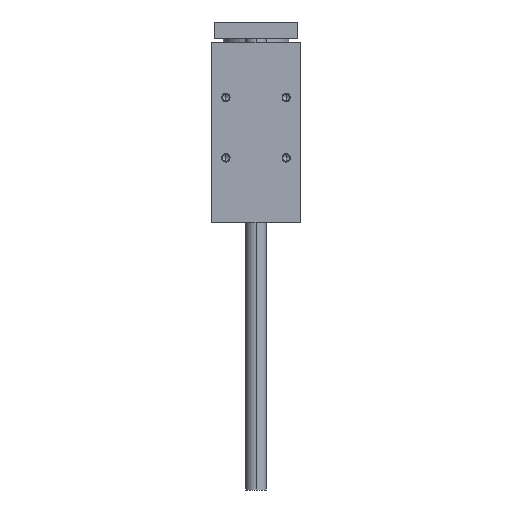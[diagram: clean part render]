
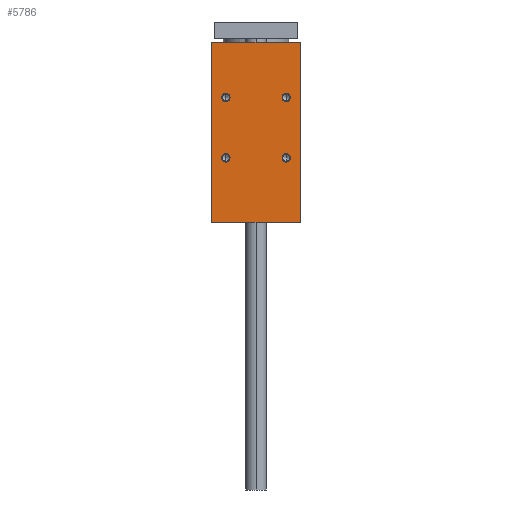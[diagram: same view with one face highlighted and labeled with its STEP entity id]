
A CAD part, left-side view. The second image highlights one B-rep face of the part: STEP entity #5786.
In plain terms, the highlighted planar face has unit normal (-1, 0, 0).
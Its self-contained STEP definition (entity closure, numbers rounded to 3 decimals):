
#59 = AXIS2_PLACEMENT_3D ( 'NONE', #8581, #6330, #8486 ) ;
#124 = LINE ( 'NONE', #5474, #5745 ) ;
#193 = CARTESIAN_POINT ( 'NONE',  ( -94.5, -52.5, 87. ) ) ;
#243 = CARTESIAN_POINT ( 'NONE',  ( -94.5, -36., 16. ) ) ;
#408 = AXIS2_PLACEMENT_3D ( 'NONE', #2732, #3460, #9449 ) ;
#469 = VERTEX_POINT ( 'NONE', #3467 ) ;
#518 = CARTESIAN_POINT ( 'NONE',  ( -94.5, -52.5, -128. ) ) ;
#523 = EDGE_LOOP ( 'NONE', ( #3005, #1964 ) ) ;
#552 = CARTESIAN_POINT ( 'NONE',  ( -94.5, 36., -56. ) ) ;
#557 = VERTEX_POINT ( 'NONE', #552 ) ;
#610 = VERTEX_POINT ( 'NONE', #698 ) ;
#653 = CIRCLE ( 'NONE', #5770, 5. ) ;
#698 = CARTESIAN_POINT ( 'NONE',  ( -94.5, 36., 16. ) ) ;
#931 = DIRECTION ( 'NONE',  ( 1., 0., 0. ) ) ;
#971 = DIRECTION ( 'NONE',  ( 1., 0., 0. ) ) ;
#1000 = EDGE_CURVE ( 'NONE', #5809, #3623, #3088, .T. ) ;
#1171 = LINE ( 'NONE', #8623, #1658 ) ;
#1232 = EDGE_CURVE ( 'NONE', #6053, #9117, #9296, .T. ) ;
#1542 = ORIENTED_EDGE ( 'NONE', *, *, #7412, .T. ) ;
#1575 = ORIENTED_EDGE ( 'NONE', *, *, #7642, .T. ) ;
#1658 = VECTOR ( 'NONE', #4143, 1000. ) ;
#1747 = CARTESIAN_POINT ( 'NONE',  ( -94.5, -52.5, -128. ) ) ;
#1840 = EDGE_LOOP ( 'NONE', ( #3393, #6830, #8201, #7185 ) ) ;
#1855 = DIRECTION ( 'NONE',  ( 0., 0., -1. ) ) ;
#1864 = DIRECTION ( 'NONE',  ( 0., 0., -1. ) ) ;
#1872 = DIRECTION ( 'NONE',  ( 0., 0., -1. ) ) ;
#1964 = ORIENTED_EDGE ( 'NONE', *, *, #8063, .T. ) ;
#2098 = CARTESIAN_POINT ( 'NONE',  ( -94.5, 36., 21. ) ) ;
#2273 = FACE_BOUND ( 'NONE', #7261, .T. ) ;
#2276 = VERTEX_POINT ( 'NONE', #7528 ) ;
#2317 = DIRECTION ( 'NONE',  ( 1., 0., 0. ) ) ;
#2346 = DIRECTION ( 'NONE',  ( 0., -1., 0. ) ) ;
#2637 = EDGE_CURVE ( 'NONE', #2276, #5441, #8312, .T. ) ;
#2732 = CARTESIAN_POINT ( 'NONE',  ( -94.5, 36., 21. ) ) ;
#2855 = FACE_BOUND ( 'NONE', #523, .T. ) ;
#2949 = CARTESIAN_POINT ( 'NONE',  ( -94.5, 52.5, -128. ) ) ;
#3005 = ORIENTED_EDGE ( 'NONE', *, *, #1000, .T. ) ;
#3088 = CIRCLE ( 'NONE', #8542, 5. ) ;
#3263 = EDGE_CURVE ( 'NONE', #5999, #610, #7240, .T. ) ;
#3284 = AXIS2_PLACEMENT_3D ( 'NONE', #2949, #2317, #3819 ) ;
#3393 = ORIENTED_EDGE ( 'NONE', *, *, #1232, .T. ) ;
#3460 = DIRECTION ( 'NONE',  ( 1., 0., 0. ) ) ;
#3467 = CARTESIAN_POINT ( 'NONE',  ( -94.5, 36., -46. ) ) ;
#3549 = DIRECTION ( 'NONE',  ( 0., 0., -1. ) ) ;
#3587 = VERTEX_POINT ( 'NONE', #9203 ) ;
#3623 = VERTEX_POINT ( 'NONE', #243 ) ;
#3777 = FACE_OUTER_BOUND ( 'NONE', #1840, .T. ) ;
#3819 = DIRECTION ( 'NONE',  ( 0., 1., 0. ) ) ;
#3840 = EDGE_CURVE ( 'NONE', #7388, #6053, #1171, .T. ) ;
#3918 = VECTOR ( 'NONE', #2346, 1000. ) ;
#3965 = DIRECTION ( 'NONE',  ( 0., 0., 1. ) ) ;
#4109 = CARTESIAN_POINT ( 'NONE',  ( -94.5, 36., -51. ) ) ;
#4143 = DIRECTION ( 'NONE',  ( 0., -1., 0. ) ) ;
#4204 = DIRECTION ( 'NONE',  ( 1., 0., 0. ) ) ;
#4283 = CARTESIAN_POINT ( 'NONE',  ( -94.5, -36., 21. ) ) ;
#4498 = DIRECTION ( 'NONE',  ( 1., 0., 0. ) ) ;
#4602 = EDGE_CURVE ( 'NONE', #7388, #3587, #124, .T. ) ;
#4691 = CIRCLE ( 'NONE', #8274, 5. ) ;
#4710 = DIRECTION ( 'NONE',  ( 0., 0., 1. ) ) ;
#4911 = ORIENTED_EDGE ( 'NONE', *, *, #8786, .T. ) ;
#5013 = DIRECTION ( 'NONE',  ( 1., 0., 0. ) ) ;
#5280 = FACE_BOUND ( 'NONE', #5810, .T. ) ;
#5321 = CARTESIAN_POINT ( 'NONE',  ( -94.5, -36., -51. ) ) ;
#5357 = AXIS2_PLACEMENT_3D ( 'NONE', #5321, #4498, #8200 ) ;
#5361 = LINE ( 'NONE', #8336, #3918 ) ;
#5441 = VERTEX_POINT ( 'NONE', #7456 ) ;
#5474 = CARTESIAN_POINT ( 'NONE',  ( -94.5, 52.5, -128. ) ) ;
#5521 = ORIENTED_EDGE ( 'NONE', *, *, #3263, .T. ) ;
#5637 = EDGE_LOOP ( 'NONE', ( #5521, #7900 ) ) ;
#5643 = CIRCLE ( 'NONE', #9380, 5. ) ;
#5745 = VECTOR ( 'NONE', #3965, 1000. ) ;
#5770 = AXIS2_PLACEMENT_3D ( 'NONE', #4109, #4204, #1872 ) ;
#5786 = ADVANCED_FACE ( 'NONE', ( #3777, #2273, #5280, #2855, #6741 ), #8943, .F. ) ;
#5809 = VERTEX_POINT ( 'NONE', #9624 ) ;
#5810 = EDGE_LOOP ( 'NONE', ( #4911, #1542 ) ) ;
#5942 = AXIS2_PLACEMENT_3D ( 'NONE', #7011, #971, #1855 ) ;
#5999 = VERTEX_POINT ( 'NONE', #7182 ) ;
#6053 = VERTEX_POINT ( 'NONE', #518 ) ;
#6330 = DIRECTION ( 'NONE',  ( 1., 0., 0. ) ) ;
#6412 = CIRCLE ( 'NONE', #5942, 5. ) ;
#6672 = VECTOR ( 'NONE', #4710, 1000. ) ;
#6741 = FACE_BOUND ( 'NONE', #5637, .T. ) ;
#6801 = EDGE_CURVE ( 'NONE', #610, #5999, #5643, .T. ) ;
#6830 = ORIENTED_EDGE ( 'NONE', *, *, #7519, .F. ) ;
#7011 = CARTESIAN_POINT ( 'NONE',  ( -94.5, -36., 21. ) ) ;
#7182 = CARTESIAN_POINT ( 'NONE',  ( -94.5, 36., 26. ) ) ;
#7185 = ORIENTED_EDGE ( 'NONE', *, *, #3840, .T. ) ;
#7240 = CIRCLE ( 'NONE', #408, 5. ) ;
#7256 = DIRECTION ( 'NONE',  ( 1., 0., 0. ) ) ;
#7261 = EDGE_LOOP ( 'NONE', ( #1575, #8918 ) ) ;
#7388 = VERTEX_POINT ( 'NONE', #8539 ) ;
#7412 = EDGE_CURVE ( 'NONE', #557, #469, #653, .T. ) ;
#7456 = CARTESIAN_POINT ( 'NONE',  ( -94.5, -36., -46. ) ) ;
#7519 = EDGE_CURVE ( 'NONE', #3587, #9117, #5361, .T. ) ;
#7528 = CARTESIAN_POINT ( 'NONE',  ( -94.5, -36., -56. ) ) ;
#7642 = EDGE_CURVE ( 'NONE', #5441, #2276, #4691, .T. ) ;
#7750 = CARTESIAN_POINT ( 'NONE',  ( -94.5, -36., -51. ) ) ;
#7834 = CIRCLE ( 'NONE', #59, 5. ) ;
#7900 = ORIENTED_EDGE ( 'NONE', *, *, #6801, .T. ) ;
#8063 = EDGE_CURVE ( 'NONE', #3623, #5809, #6412, .T. ) ;
#8200 = DIRECTION ( 'NONE',  ( 0., 0., -1. ) ) ;
#8201 = ORIENTED_EDGE ( 'NONE', *, *, #4602, .F. ) ;
#8274 = AXIS2_PLACEMENT_3D ( 'NONE', #7750, #931, #1864 ) ;
#8312 = CIRCLE ( 'NONE', #5357, 5. ) ;
#8336 = CARTESIAN_POINT ( 'NONE',  ( -94.5, 52.5, 87. ) ) ;
#8486 = DIRECTION ( 'NONE',  ( 0., 0., -1. ) ) ;
#8539 = CARTESIAN_POINT ( 'NONE',  ( -94.5, 52.5, -128. ) ) ;
#8542 = AXIS2_PLACEMENT_3D ( 'NONE', #4283, #7256, #3549 ) ;
#8581 = CARTESIAN_POINT ( 'NONE',  ( -94.5, 36., -51. ) ) ;
#8623 = CARTESIAN_POINT ( 'NONE',  ( -94.5, 52.5, -128. ) ) ;
#8786 = EDGE_CURVE ( 'NONE', #469, #557, #7834, .T. ) ;
#8862 = DIRECTION ( 'NONE',  ( 0., 0., -1. ) ) ;
#8918 = ORIENTED_EDGE ( 'NONE', *, *, #2637, .T. ) ;
#8943 = PLANE ( 'NONE',  #3284 ) ;
#9117 = VERTEX_POINT ( 'NONE', #193 ) ;
#9203 = CARTESIAN_POINT ( 'NONE',  ( -94.5, 52.5, 87. ) ) ;
#9296 = LINE ( 'NONE', #1747, #6672 ) ;
#9380 = AXIS2_PLACEMENT_3D ( 'NONE', #2098, #5013, #8862 ) ;
#9449 = DIRECTION ( 'NONE',  ( 0., 0., -1. ) ) ;
#9624 = CARTESIAN_POINT ( 'NONE',  ( -94.5, -36., 26. ) ) ;
